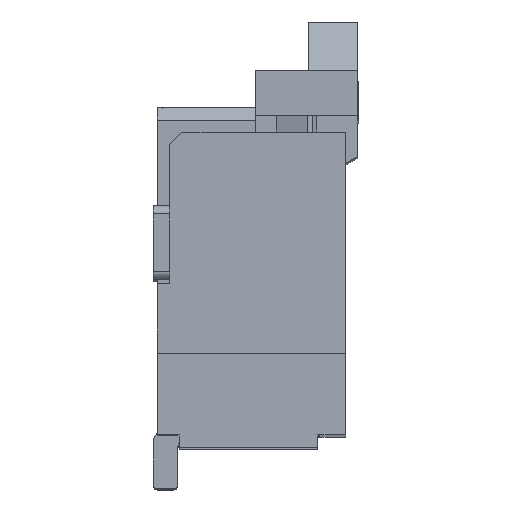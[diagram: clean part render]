
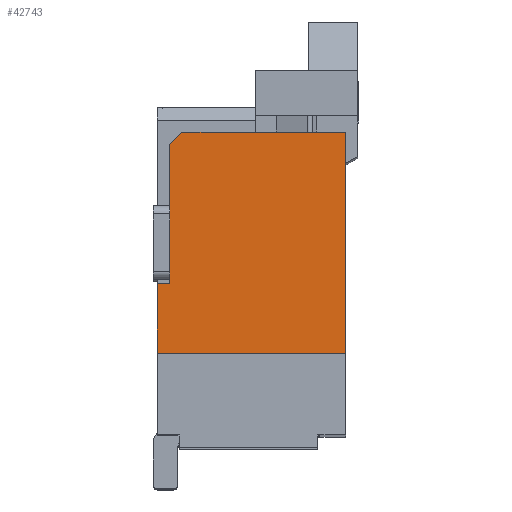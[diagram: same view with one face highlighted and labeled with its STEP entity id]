
A CAD part, top view. The second image highlights one B-rep face of the part: STEP entity #42743.
In plain terms, the highlighted planar face has unit normal (0, 0, 1).
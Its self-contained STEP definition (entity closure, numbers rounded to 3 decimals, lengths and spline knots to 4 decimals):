
#5151=DIRECTION('',(0.,-1.,0.));
#5152=VECTOR('',#5151,2.7);
#5153=CARTESIAN_POINT('',(1.15,1.925,10.3));
#5154=LINE('',#5153,#5152);
#5251=DIRECTION('',(0.,1.,0.));
#5252=VECTOR('',#5251,0.85);
#5253=CARTESIAN_POINT('',(-1.15,-0.775,10.3));
#5254=LINE('',#5253,#5252);
#5399=DIRECTION('',(-0.707,-0.707,0.));
#5400=VECTOR('',#5399,0.2121);
#5401=CARTESIAN_POINT('',(-0.85,1.925,10.3));
#5402=LINE('',#5401,#5400);
#5403=DIRECTION('',(-1.,0.,0.));
#5404=VECTOR('',#5403,2.);
#5405=CARTESIAN_POINT('',(1.15,1.925,10.3));
#5406=LINE('',#5405,#5404);
#5407=DIRECTION('',(-1.,0.,0.));
#5408=VECTOR('',#5407,0.15);
#5409=CARTESIAN_POINT('',(-1.,0.075,10.3));
#5410=LINE('',#5409,#5408);
#5411=DIRECTION('',(0.,1.,0.));
#5412=VECTOR('',#5411,0.9);
#5413=CARTESIAN_POINT('',(-1.,0.125,10.3));
#5414=LINE('',#5413,#5412);
#5455=DIRECTION('',(0.,1.,0.));
#5456=VECTOR('',#5455,0.05);
#5457=CARTESIAN_POINT('',(-1.,0.075,10.3));
#5458=LINE('',#5457,#5456);
#5950=DIRECTION('',(0.,1.,0.));
#5951=VECTOR('',#5950,0.75);
#5952=CARTESIAN_POINT('',(-1.,1.025,10.3));
#5953=LINE('',#5952,#5951);
#6182=DIRECTION('',(-1.,0.,0.));
#6183=VECTOR('',#6182,2.3);
#6184=CARTESIAN_POINT('',(1.15,-0.775,10.3));
#6185=LINE('',#6184,#6183);
#33394=CARTESIAN_POINT('',(1.15,1.925,10.3));
#33395=VERTEX_POINT('',#33394);
#33396=CARTESIAN_POINT('',(1.15,-0.775,10.3));
#33397=VERTEX_POINT('',#33396);
#33750=CARTESIAN_POINT('',(-1.15,-0.775,10.3));
#33751=VERTEX_POINT('',#33750);
#33752=CARTESIAN_POINT('',(-1.15,0.075,10.3));
#33753=VERTEX_POINT('',#33752);
#35348=CARTESIAN_POINT('',(-1.,0.075,10.3));
#35349=VERTEX_POINT('',#35348);
#35350=CARTESIAN_POINT('',(-1.,0.125,10.3));
#35351=VERTEX_POINT('',#35350);
#35370=CARTESIAN_POINT('',(-1.,1.025,10.3));
#35371=VERTEX_POINT('',#35370);
#35378=CARTESIAN_POINT('',(-0.85,1.925,10.3));
#35379=VERTEX_POINT('',#35378);
#35380=CARTESIAN_POINT('',(-1.,1.775,10.3));
#35381=VERTEX_POINT('',#35380);
#42721=CARTESIAN_POINT('',(0.,0.575,10.3));
#42722=DIRECTION('',(0.,0.,1.));
#42723=DIRECTION('',(0.,-1.,0.));
#42724=AXIS2_PLACEMENT_3D('',#42721,#42722,#42723);
#42725=PLANE('',#42724);
#42727=ORIENTED_EDGE('',*,*,#42726,.T.);
#42729=ORIENTED_EDGE('',*,*,#42728,.T.);
#42731=ORIENTED_EDGE('',*,*,#42730,.F.);
#42732=ORIENTED_EDGE('',*,*,#42714,.F.);
#42733=ORIENTED_EDGE('',*,*,#42370,.T.);
#42735=ORIENTED_EDGE('',*,*,#42734,.T.);
#42736=ORIENTED_EDGE('',*,*,#42485,.T.);
#42738=ORIENTED_EDGE('',*,*,#42737,.F.);
#42740=ORIENTED_EDGE('',*,*,#42739,.T.);
#42741=EDGE_LOOP('',(#42727,#42729,#42731,#42732,#42733,#42735,#42736,#42738,
#42740));
#42742=FACE_OUTER_BOUND('',#42741,.F.);
#42743=ADVANCED_FACE('',(#42742),#42725,.T.);
#42370=EDGE_CURVE('',#33395,#33397,#5154,.T.);
#42485=EDGE_CURVE('',#33751,#33753,#5254,.T.);
#42714=EDGE_CURVE('',#33395,#35379,#5406,.T.);
#42726=EDGE_CURVE('',#35351,#35371,#5414,.T.);
#42728=EDGE_CURVE('',#35371,#35381,#5953,.T.);
#42730=EDGE_CURVE('',#35379,#35381,#5402,.T.);
#42734=EDGE_CURVE('',#33397,#33751,#6185,.T.);
#42737=EDGE_CURVE('',#35349,#33753,#5410,.T.);
#42739=EDGE_CURVE('',#35349,#35351,#5458,.T.);
